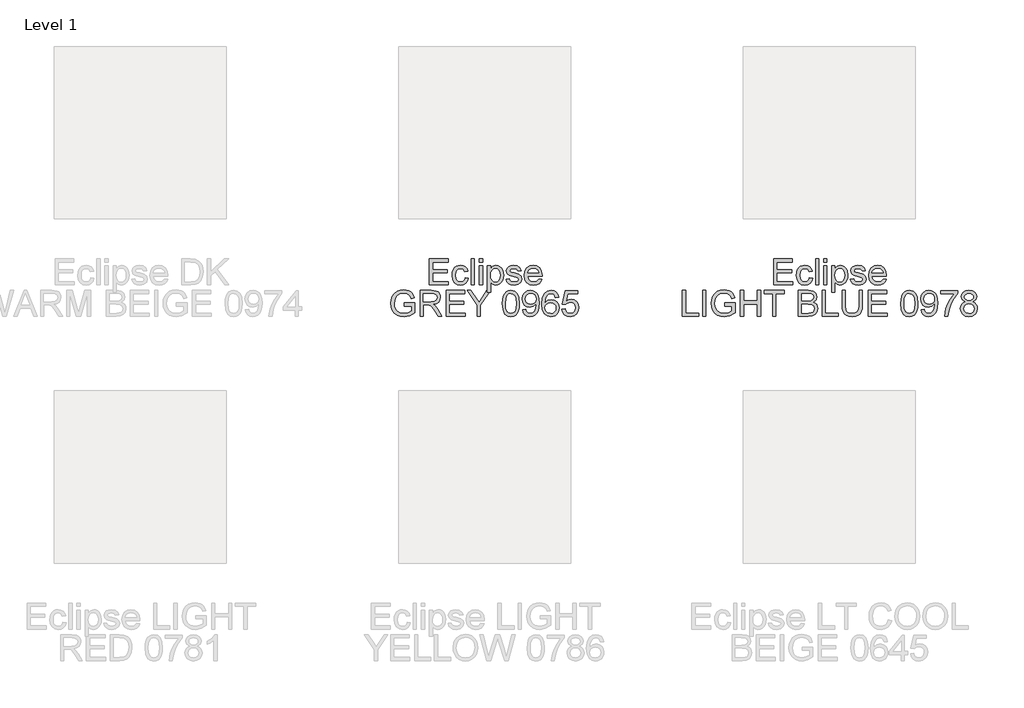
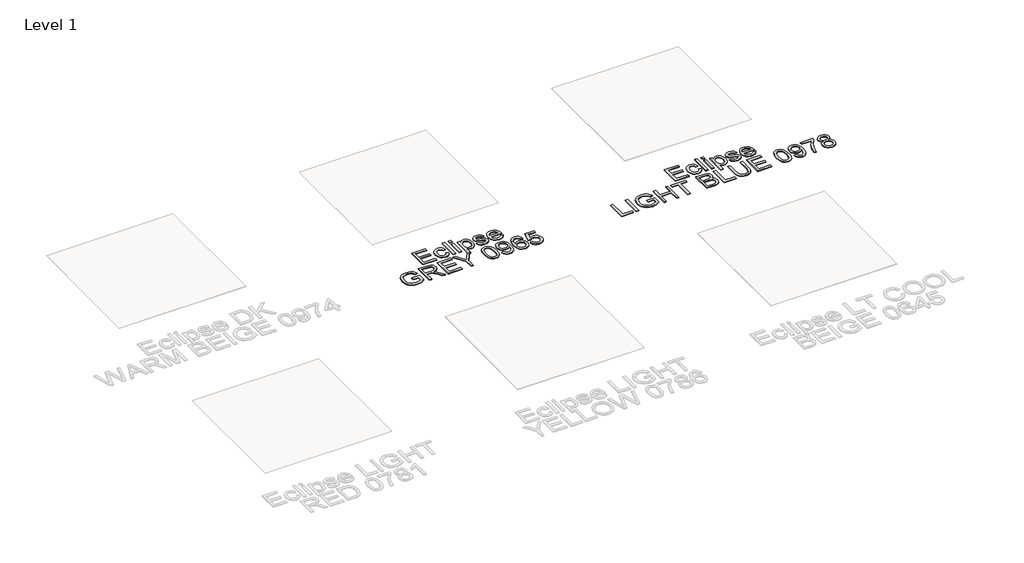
# One storey, part 12 of 13: 2 proxies.
"""IFC4 building model written with IfcOpenShell, lengths in millimetres."""

from ifc_helpers import new_model, si_unit, origin, origin_with_axes, place, context, project, spatial, polyline, outline, extrude, element, save

model = new_model("IFC4")

# Units and contexts
model_context = context("Model", 3, world=origin())
ifc_project = project(units=[si_unit("LENGTHUNIT", "METRE", prefix="MILLI")], contexts=[model_context])

# Site, building, storey
site = spatial("IfcSite", under=ifc_project)
building = spatial("IfcBuilding", under=site)
storey = spatial("IfcBuildingStorey", under=building, Name="Level 1", Elevation=0.0)

# Proxies
placement = place(None, origin())
element("IfcBuildingElementProxy", 1, Name="150mm Arial", ObjectType="150mm Arial", at=placement, inside=storey, context=model_context, shape_type="SweptSolid", body=[
    extrude(outline(polyline([(3744.6774457, 637.0544578), (3744.6774457, 787.738923), (3852.9819051, 787.738923), (3852.9819051, 768.9033648), (3763.5130039, 768.9033648), (3763.5130039, 724.1689142), (3848.2730155, 724.1689142), (3848.2730155, 705.3333561), (3763.5130039, 705.3333561), (3763.5130039, 655.8900159), (3855.3363499, 655.8900159), (3855.3363499, 637.0544578), (3744.6774457, 637.0544578)])), origin_with_axes(), (0.0, 0.0, 1.0), 5.0),
    extrude(outline(polyline([(3951.8685854, 677.0800188), (3970.7041435, 674.7255741), (3965.4526281, 657.9731477), (3955.5841935, 645.3134086), (3942.027742, 637.3533619), (3925.7121755, 634.700013), (3905.6764024, 638.4018256), (3890.0092279, 649.5072633), (3879.8970716, 667.5288825), (3876.5263528, 691.9792397), (3877.9656911, 708.7408631), (3882.283706, 723.2676033), (3889.5493754, 734.9984405), (3899.8316772, 743.3723544), (3912.1327314, 748.3939436), (3925.4546581, 750.0678067), (3941.3701529, 747.7685442), (3954.0942715, 740.8707568), (3963.2223435, 729.7423265), (3968.3496988, 714.7511352), (3949.5141406, 712.3966904), (3940.7769432, 726.5049649), (3925.6018109, 731.2322485), (3913.4295154, 728.9053949), (3903.7680145, 721.9248341), (3897.4634368, 709.9134869), (3895.3619109, 692.4942744), (3897.4174516, 674.8405372), (3903.5840735, 662.7878033), (3913.0708305, 655.8486292), (3925.0867761, 653.5355712), (3934.8402475, 654.979508), (3942.8370824, 659.3113185), (3948.6542165, 666.6413672), (3951.8685854, 677.0800188)])), origin_with_axes(), (0.0, 0.0, 1.0), 5.0),
    extrude(outline(polyline([(3987.1852569, 637.0544578), (3987.1852569, 787.738923), (4006.0208151, 787.738923), (4006.0208151, 637.0544578), (3987.1852569, 637.0544578)])), origin_with_axes(), (0.0, 0.0, 1.0), 5.0),
    extrude(outline(polyline([(4034.2741523, 768.9033648), (4034.2741523, 787.738923), (4053.1097105, 787.738923), (4053.1097105, 768.9033648), (4034.2741523, 768.9033648)])), origin_with_axes(), (0.0, 0.0, 1.0), 5.0),
    extrude(outline(polyline([(4034.2741523, 637.0544578), (4034.2741523, 747.7133619), (4053.1097105, 747.7133619), (4053.1097105, 637.0544578), (4034.2741523, 637.0544578)])), origin_with_axes(), (0.0, 0.0, 1.0), 5.0),
    extrude(outline(polyline([(4081.3630477, 594.6744519), (4081.3630477, 747.7133619), (4100.1986058, 747.7133619), (4100.1986058, 729.2456858), (4113.2216285, 744.8622765), (4130.8063878, 750.0678067), (4143.5443019, 748.2467908), (4154.6819293, 742.7837432), (4163.7502205, 734.0097576), (4170.2801259, 722.2559279), (4175.5408385, 693.2300384), (4174.0555149, 677.1214056), (4169.5995442, 662.7142269), (4162.3154807, 650.739668), (4152.3458787, 641.9288942), (4140.7346032, 636.5072333), (4128.5255195, 634.700013), (4112.1363766, 639.5376612), (4100.1986058, 651.7697376), (4100.1986058, 594.6744519), (4081.3630477, 594.6744519)]), holes=[polyline([(4100.1986058, 691.5009931), (4102.2357524, 674.6152095), (4108.347192, 662.8061974), (4117.3648994, 655.8532277), (4128.1208493, 653.5355712), (4139.0515431, 655.9360012), (4148.2991767, 663.1372912), (4154.6037544, 675.3785646), (4156.7052803, 692.8989446), (4154.6543382, 709.6927577), (4148.5015118, 721.6673167), (4139.4976, 728.8410156), (4128.8934015, 731.2322485), (4118.2478162, 728.6892642), (4108.899015, 721.0603114), (4102.3737081, 708.5845132), (4100.1986058, 691.5009931)])]), origin_with_axes(), (0.0, 0.0, 1.0), 5.0),
    extrude(outline(polyline([(4189.6675071, 670.0166845), (4208.5030652, 672.3711293), (4211.4737123, 664.3145136), (4217.2218685, 658.3916135), (4237.1978608, 653.5355712), (4256.401301, 657.9869433), (4262.6552949, 668.434792), (4261.0825994, 673.235652), (4256.3645128, 676.8960778), (4236.9771316, 682.267155), (4208.6134298, 691.482599), (4196.2342007, 702.2431473), (4192.0219518, 717.4366737), (4195.4064662, 731.4713718), (4204.6403043, 742.195132), (4216.6148632, 747.7685442), (4232.8200651, 750.0678067), (4255.7391134, 746.3705926), (4270.3072404, 736.3642024), (4276.7819635, 719.4600247), (4257.9464054, 717.1055799), (4250.864677, 727.4982463), (4234.2915931, 731.2322485), (4216.2653753, 727.6637932), (4210.85751, 719.3496601), (4213.1015902, 713.8682184), (4220.1281363, 709.7111518), (4236.3517323, 705.7012381), (4263.9980642, 696.835282), (4276.8371458, 686.7921035), (4281.4908531, 670.4213547), (4276.0278054, 652.395137), (4260.2640619, 639.316932), (4236.9403434, 634.700013), (4217.9484354, 636.9256991), (4204.0884813, 643.6027573), (4194.8362491, 654.6576112), (4189.6675071, 670.0166845)])), origin_with_axes(), (0.0, 0.0, 1.0), 5.0),
    extrude(outline(polyline([(4380.1568042, 670.0166845), (4398.6244803, 667.6622398), (4391.9704147, 653.7471033), (4381.3524207, 643.3452399), (4367.0096214, 636.8613197), (4349.1811402, 634.700013), (4327.0806293, 638.4294167), (4310.0752841, 649.6176279), (4299.2319623, 667.5380796), (4295.6175217, 691.4642049), (4299.2687505, 716.195072), (4310.2224369, 734.6903393), (4326.9978559, 746.2234398), (4348.1142824, 750.0678067), (4368.5731198, 746.2326369), (4384.920876, 734.7271275), (4395.6400376, 716.2686484), (4399.2130915, 691.5745695), (4399.1027269, 686.4977979), (4314.4530798, 686.4977979), (4317.713434, 672.3987205), (4325.2872046, 662.0336452), (4336.2178984, 655.6600897), (4349.5490222, 653.5355712), (4368.0166983, 657.4719085), (4380.1568042, 670.0166845)]), holes=[polyline([(4314.4530798, 705.3333561), (4380.3775334, 705.3333561), (4377.8299506, 715.284564), (4372.8359525, 722.4030807), (4361.8546749, 729.0249566), (4348.040706, 731.2322485), (4335.3441786, 729.4710135), (4324.8457462, 724.1873083), (4317.5478871, 715.9513502), (4314.4530798, 705.3333561)])]), origin_with_axes(), (0.0, 0.0, 1.0), 5.0),
    extrude(outline(polyline([(3598.70187, 512.9533502), (3598.70187, 531.7889084), (3659.917434, 531.7889084), (3659.917434, 475.4661749), (3629.6959281, 457.6974746), (3597.7453768, 451.7377862), (3576.6151547, 454.1060266), (3557.5174807, 461.2107476), (3541.6525696, 472.803629), (3530.2206366, 488.6363503), (3523.3090536, 507.6282584), (3521.0051926, 528.6986996), (3523.2998566, 549.9208922), (3530.1838484, 569.6623598), (3541.3720596, 586.2216481), (3556.5793816, 597.8973029), (3575.10224, 604.8226815), (3596.2370606, 607.131141), (3625.7044085, 601.778458), (3637.4536397, 595.3773113), (3646.3609825, 586.8792372), (3657.7469302, 561.955232), (3640.3829001, 557.0624015), (3631.7928555, 574.4816139), (3617.1143639, 584.5247924), (3595.9427551, 588.2955828), (3571.8280903, 584.2304868), (3555.4205533, 573.5619089), (3545.7268627, 559.0489642), (3539.8407508, 529.4712518), (3541.6111829, 511.4588296), (3546.9224792, 496.6377837), (3555.6136913, 485.1138802), (3567.5238709, 476.9928852), (3581.462, 472.1782296), (3596.2370606, 470.5733444), (3622.0071944, 475.4109926), (3641.0818759, 485.7300826), (3641.0818759, 512.9533502), (3598.70187, 512.9533502)])), origin_with_axes(), (0.0, 0.0, 1.0), 5.0),
    extrude(outline(polyline([(3690.525216, 454.092231), (3690.525216, 604.7766962), (3755.4563882, 604.7766962), (3785.6043177, 600.7116002), (3794.884141, 595.0830057), (3802.085431, 586.3274142), (3806.7069486, 575.4702968), (3808.2474545, 563.5371246), (3805.6952731, 548.6930861), (3798.0387291, 536.3874333), (3785.0478961, 527.3651274), (3766.492848, 522.3711293), (3777.1982141, 514.3145136), (3792.4653169, 494.9271325), (3817.5916571, 454.092231), (3795.7026784, 454.092231), (3776.0945681, 485.3254124), (3761.9311113, 506.0003805), (3751.9799033, 515.7676475), (3743.0219767, 519.3544969), (3732.0958815, 520.0166845), (3709.3607742, 520.0166845), (3709.3607742, 454.092231), (3690.525216, 454.092231)]), holes=[polyline([(3709.3607742, 538.8522427), (3751.5200508, 538.8522427), (3773.0227534, 541.5193872), (3785.2364357, 550.0542494), (3789.4118963, 562.8381488), (3787.420735, 572.0260016), (3781.4472511, 579.4296268), (3771.1695479, 584.3132602), (3756.2657286, 585.9411381), (3709.3607742, 585.9411381), (3709.3607742, 538.8522427)])]), origin_with_axes(), (0.0, 0.0, 1.0), 5.0),
    extrude(outline(polyline([(3841.2096812, 454.092231), (3841.2096812, 604.7766962), (3949.5141406, 604.7766962), (3949.5141406, 585.9411381), (3860.0452394, 585.9411381), (3860.0452394, 541.2066875), (3944.8052511, 541.2066875), (3944.8052511, 522.3711293), (3860.0452394, 522.3711293), (3860.0452394, 472.9277892), (3951.8685854, 472.9277892), (3951.8685854, 454.092231), (3841.2096812, 454.092231)])), origin_with_axes(), (0.0, 0.0, 1.0), 5.0),
    extrude(outline(polyline([(4022.5019285, 454.092231), (4022.5019285, 517.9197572), (3963.6408092, 604.7766962), (3985.8608817, 604.7766962), (4017.2780041, 558.3867766), (4033.3544473, 534.7319643), (4049.4676787, 560.0790338), (4077.9785333, 604.7766962), (4100.1986058, 604.7766962), (4041.3374866, 517.9197572), (4041.3374866, 454.092231), (4022.5019285, 454.092231)])), origin_with_axes(), (0.0, 0.0, 1.0), 5.0),
    extrude(outline(polyline([(4168.4775041, 528.220453), (4169.8616602, 552.3397163), (4174.0141282, 571.5753462), (4180.8935215, 586.2216481), (4190.4584534, 596.5729277), (4202.7779017, 602.7257541), (4217.9208443, 604.7766962), (4239.9201876, 599.9206539), (4255.113714, 585.922744), (4263.9428819, 563.6290951), (4267.3641844, 528.220453), (4265.993824, 504.2391455), (4261.8827427, 485.0495009), (4255.0447361, 470.3894034), (4245.4935998, 459.996737), (4233.1465604, 453.8025239), (4217.9208443, 451.7377862), (4198.3495222, 455.3246357), (4183.4870895, 466.085184), (4172.2299005, 491.5702093), (4168.4775041, 528.220453)]), holes=[polyline([(4187.3130623, 528.2572412), (4189.5203543, 498.628945), (4196.1422302, 481.4810455), (4206.0014677, 473.3002697), (4217.9208443, 470.5733444), (4229.8402209, 473.3094667), (4239.6994584, 481.5178337), (4246.3213343, 498.6749303), (4248.5286263, 528.2572412), (4246.3949107, 557.2187513), (4239.993764, 574.500008), (4230.1529206, 583.0808556), (4217.7001151, 585.9411381), (4205.9094972, 583.4211464), (4196.4365358, 575.8611714), (4189.5939307, 557.5038598), (4187.3130623, 528.2572412)])]), origin_with_axes(), (0.0, 0.0, 1.0), 5.0),
    extrude(outline(polyline([(4286.1997426, 491.7633473), (4305.0353008, 494.1177921), (4308.2542682, 483.4262216), (4313.4965866, 476.1467566), (4320.6334974, 471.9666974), (4329.5362416, 470.5733444), (4344.7849503, 474.1601938), (4355.1224344, 483.7435198), (4361.2844578, 500.1142686), (4364.0067846, 521.9664591), (4363.89642, 525.6452791), (4348.8316523, 511.3714577), (4328.1750783, 505.8900159), (4310.9995876, 509.2377421), (4296.7027736, 519.2809205), (4287.0596668, 534.7963437), (4283.8452978, 554.5608039), (4287.2160166, 574.9782546), (4297.328173, 590.9811214), (4312.5171008, 601.3278025), (4331.1181342, 604.7766962), (4345.1666279, 602.8085276), (4357.9551258, 596.9040215), (4368.6512948, 587.3574838), (4376.4228019, 574.4632198), (4381.1546841, 556.6393372), (4382.7319781, 532.3039432), (4381.1592826, 506.5016197), (4376.441196, 486.5578171), (4368.6191051, 471.5712243), (4357.7343966, 460.6405305), (4344.25612, 453.9634723), (4328.6533248, 451.7377862), (4312.5492905, 454.363544), (4299.7010118, 462.2408172), (4290.7154941, 474.8729652), (4286.1997426, 491.7633473)]), holes=[polyline([(4363.89642, 555.0022623), (4361.863872, 567.7677675), (4355.7662279, 577.5902168), (4346.3024636, 583.8534078), (4334.1715548, 585.9411381), (4321.5899905, 583.6924594), (4311.5100239, 576.9464233), (4304.888148, 566.6227348), (4302.680856, 553.6410989), (4304.7685863, 542.0022323), (4311.0317773, 532.7637957), (4320.8634236, 526.7351295), (4333.65652, 524.7255741), (4345.6908597, 526.7351295), (4355.3799518, 532.7637957), (4361.7673029, 542.3425231), (4363.89642, 555.0022623)])]), origin_with_axes(), (0.0, 0.0, 1.0), 5.0),
    extrude(outline(polyline([(4495.7453271, 564.7511352), (4476.9097689, 562.3966904), (4469.7728582, 578.1052516), (4461.2287989, 583.9821664), (4450.9005118, 585.9411381), (4433.9043637, 581.3794013), (4421.0468879, 564.2544945), (4417.1427403, 550.2243949), (4415.6942049, 530.6852624), (4432.304077, 545.7132419), (4452.8870746, 550.6244665), (4470.287893, 547.2675433), (4484.8928082, 537.1967737), (4494.7980309, 521.8101093), (4498.0997718, 502.5055016), (4496.5454704, 489.0180279), (4491.8825661, 476.5146386), (4484.4973351, 465.9104401), (4474.7760533, 458.1205388), (4463.1601793, 453.3334744), (4450.0911715, 451.7377862), (4428.7218261, 455.9684292), (4411.7026853, 468.660358), (4400.5696564, 491.0643715), (4396.8586468, 524.4312685), (4400.9789251, 561.9460349), (4413.3397601, 587.5966071), (4430.2163467, 600.4816739), (4452.0777342, 604.7766962), (4468.6048329, 602.1187488), (4481.8393876, 594.1449066), (4491.1100139, 581.4805689), (4495.7453271, 564.7511352)]), holes=[polyline([(4415.6942049, 502.7998072), (4420.0536065, 486.4842407), (4431.6418894, 474.6384404), (4448.6196435, 470.5733444), (4461.0494564, 472.6794688), (4470.8213219, 478.9978421), (4477.1534907, 488.9306559), (4479.2642137, 501.8801022), (4477.1810819, 514.3099151), (4470.9316865, 523.787475), (4460.9942741, 529.78855), (4447.8470913, 531.7889084), (4435.4356725, 529.78855), (4425.0568017, 523.787475), (4418.0348541, 514.5398413), (4415.6942049, 502.7998072)])]), origin_with_axes(), (0.0, 0.0, 1.0), 5.0),
    extrude(outline(polyline([(4514.5808852, 494.1177921), (4533.4164434, 496.4722368), (4536.8745341, 485.164464), (4542.9077988, 477.0664616), (4551.4886464, 472.1966237), (4562.5894856, 470.5733444), (4576.0907548, 472.8312201), (4586.2075097, 479.6048474), (4592.5258829, 490.1124769), (4594.6320074, 503.5723594), (4592.6592402, 516.2458941), (4586.7409386, 525.9395847), (4576.8311173, 532.092411), (4562.8837912, 534.1433532), (4546.3474955, 530.8692034), (4535.7708881, 522.3711293), (4516.93533, 524.7255741), (4533.4164434, 602.4222515), (4606.4042312, 602.4222515), (4606.4042312, 583.5866933), (4548.646758, 583.5866933), (4540.5901423, 542.0896042), (4554.0454262, 550.2565845), (4568.1445037, 552.9789113), (4585.7430587, 549.603594), (4600.3525724, 539.4776421), (4610.1888172, 524.0449924), (4613.4675655, 504.7495817), (4610.5153125, 485.9140236), (4601.6585535, 469.8007922), (4584.6991935, 456.2535377), (4562.5159092, 451.7377862), (4544.0160433, 454.6394555), (4529.2777709, 463.3444632), (4519.1748116, 476.8411339), (4514.5808852, 494.1177921)])), origin_with_axes(), (0.0, 0.0, 1.0), 5.0),
])
element("IfcBuildingElementProxy", 2, Name="150mm Arial", ObjectType="150mm Arial", at=placement, inside=storey, context=model_context, shape_type="SweptSolid", body=[
    extrude(outline(polyline([(5744.6774457, 637.0544578), (5744.6774457, 787.738923), (5852.9819051, 787.738923), (5852.9819051, 768.9033648), (5763.5130039, 768.9033648), (5763.5130039, 724.1689142), (5848.2730155, 724.1689142), (5848.2730155, 705.3333561), (5763.5130039, 705.3333561), (5763.5130039, 655.8900159), (5855.3363499, 655.8900159), (5855.3363499, 637.0544578), (5744.6774457, 637.0544578)])), origin_with_axes(), (0.0, 0.0, 1.0), 5.0),
    extrude(outline(polyline([(5951.8685854, 677.0800188), (5970.7041435, 674.7255741), (5965.4526281, 657.9731477), (5955.5841935, 645.3134086), (5942.027742, 637.3533619), (5925.7121755, 634.700013), (5905.6764024, 638.4018256), (5890.0092279, 649.5072633), (5879.8970716, 667.5288825), (5876.5263528, 691.9792397), (5877.9656911, 708.7408631), (5882.283706, 723.2676033), (5889.5493754, 734.9984405), (5899.8316772, 743.3723544), (5912.1327314, 748.3939436), (5925.4546581, 750.0678067), (5941.3701529, 747.7685442), (5954.0942715, 740.8707568), (5963.2223435, 729.7423265), (5968.3496988, 714.7511352), (5949.5141406, 712.3966904), (5940.7769432, 726.5049649), (5925.6018109, 731.2322485), (5913.4295154, 728.9053949), (5903.7680145, 721.9248341), (5897.4634368, 709.9134869), (5895.3619109, 692.4942744), (5897.4174516, 674.8405372), (5903.5840735, 662.7878033), (5913.0708305, 655.8486292), (5925.0867761, 653.5355712), (5934.8402475, 654.979508), (5942.8370824, 659.3113185), (5948.6542165, 666.6413672), (5951.8685854, 677.0800188)])), origin_with_axes(), (0.0, 0.0, 1.0), 5.0),
    extrude(outline(polyline([(5987.1852569, 637.0544578), (5987.1852569, 787.738923), (6006.0208151, 787.738923), (6006.0208151, 637.0544578), (5987.1852569, 637.0544578)])), origin_with_axes(), (0.0, 0.0, 1.0), 5.0),
    extrude(outline(polyline([(6034.2741523, 768.9033648), (6034.2741523, 787.738923), (6053.1097105, 787.738923), (6053.1097105, 768.9033648), (6034.2741523, 768.9033648)])), origin_with_axes(), (0.0, 0.0, 1.0), 5.0),
    extrude(outline(polyline([(6034.2741523, 637.0544578), (6034.2741523, 747.7133619), (6053.1097105, 747.7133619), (6053.1097105, 637.0544578), (6034.2741523, 637.0544578)])), origin_with_axes(), (0.0, 0.0, 1.0), 5.0),
    extrude(outline(polyline([(6081.3630477, 594.6744519), (6081.3630477, 747.7133619), (6100.1986058, 747.7133619), (6100.1986058, 729.2456858), (6113.2216285, 744.8622765), (6130.8063878, 750.0678067), (6143.5443019, 748.2467908), (6154.6819293, 742.7837432), (6163.7502205, 734.0097576), (6170.2801259, 722.2559279), (6175.5408385, 693.2300384), (6174.0555149, 677.1214056), (6169.5995442, 662.7142269), (6162.3154807, 650.739668), (6152.3458787, 641.9288942), (6140.7346032, 636.5072333), (6128.5255195, 634.700013), (6112.1363766, 639.5376612), (6100.1986058, 651.7697376), (6100.1986058, 594.6744519), (6081.3630477, 594.6744519)]), holes=[polyline([(6100.1986058, 691.5009931), (6102.2357524, 674.6152095), (6108.347192, 662.8061974), (6117.3648994, 655.8532277), (6128.1208493, 653.5355712), (6139.0515431, 655.9360012), (6148.2991767, 663.1372912), (6154.6037544, 675.3785646), (6156.7052803, 692.8989446), (6154.6543382, 709.6927577), (6148.5015118, 721.6673167), (6139.4976, 728.8410156), (6128.8934015, 731.2322485), (6118.2478162, 728.6892642), (6108.899015, 721.0603114), (6102.3737081, 708.5845132), (6100.1986058, 691.5009931)])]), origin_with_axes(), (0.0, 0.0, 1.0), 5.0),
    extrude(outline(polyline([(6189.6675071, 670.0166845), (6208.5030652, 672.3711293), (6211.4737123, 664.3145136), (6217.2218685, 658.3916135), (6237.1978608, 653.5355712), (6256.401301, 657.9869433), (6262.6552949, 668.434792), (6261.0825994, 673.235652), (6256.3645128, 676.8960778), (6236.9771316, 682.267155), (6208.6134298, 691.482599), (6196.2342007, 702.2431473), (6192.0219518, 717.4366737), (6195.4064662, 731.4713718), (6204.6403043, 742.195132), (6216.6148632, 747.7685442), (6232.8200651, 750.0678067), (6255.7391134, 746.3705926), (6270.3072404, 736.3642024), (6276.7819635, 719.4600247), (6257.9464054, 717.1055799), (6250.864677, 727.4982463), (6234.2915931, 731.2322485), (6216.2653753, 727.6637932), (6210.85751, 719.3496601), (6213.1015902, 713.8682184), (6220.1281363, 709.7111518), (6236.3517323, 705.7012381), (6263.9980642, 696.835282), (6276.8371458, 686.7921035), (6281.4908531, 670.4213547), (6276.0278054, 652.395137), (6260.2640619, 639.316932), (6236.9403434, 634.700013), (6217.9484354, 636.9256991), (6204.0884813, 643.6027573), (6194.8362491, 654.6576112), (6189.6675071, 670.0166845)])), origin_with_axes(), (0.0, 0.0, 1.0), 5.0),
    extrude(outline(polyline([(6380.1568042, 670.0166845), (6398.6244803, 667.6622398), (6391.9704147, 653.7471033), (6381.3524207, 643.3452399), (6367.0096214, 636.8613197), (6349.1811402, 634.700013), (6327.0806293, 638.4294167), (6310.0752841, 649.6176279), (6299.2319623, 667.5380796), (6295.6175217, 691.4642049), (6299.2687505, 716.195072), (6310.2224369, 734.6903393), (6326.9978559, 746.2234398), (6348.1142824, 750.0678067), (6368.5731198, 746.2326369), (6384.920876, 734.7271275), (6395.6400376, 716.2686484), (6399.2130915, 691.5745695), (6399.1027269, 686.4977979), (6314.4530798, 686.4977979), (6317.713434, 672.3987205), (6325.2872046, 662.0336452), (6336.2178984, 655.6600897), (6349.5490222, 653.5355712), (6368.0166983, 657.4719085), (6380.1568042, 670.0166845)]), holes=[polyline([(6314.4530798, 705.3333561), (6380.3775334, 705.3333561), (6377.8299506, 715.284564), (6372.8359525, 722.4030807), (6361.8546749, 729.0249566), (6348.040706, 731.2322485), (6335.3441786, 729.4710135), (6324.8457462, 724.1873083), (6317.5478871, 715.9513502), (6314.4530798, 705.3333561)])]), origin_with_axes(), (0.0, 0.0, 1.0), 5.0),
    extrude(outline(polyline([(5213.7501503, 454.092231), (5213.7501503, 604.7766962), (5232.5857084, 604.7766962), (5232.5857084, 472.9277892), (5307.927941, 472.9277892), (5307.927941, 454.092231), (5213.7501503, 454.092231)])), origin_with_axes(), (0.0, 0.0, 1.0), 5.0),
    extrude(outline(polyline([(5331.4723887, 454.092231), (5331.4723887, 604.7766962), (5350.3079469, 604.7766962), (5350.3079469, 454.092231), (5331.4723887, 454.092231)])), origin_with_axes(), (0.0, 0.0, 1.0), 5.0),
    extrude(outline(polyline([(5458.6124063, 512.9533502), (5458.6124063, 531.7889084), (5519.8279703, 531.7889084), (5519.8279703, 475.4661749), (5489.6064643, 457.6974746), (5457.6559131, 451.7377862), (5436.525691, 454.1060266), (5417.4280169, 461.2107476), (5401.5631059, 472.803629), (5390.1311729, 488.6363503), (5383.2195899, 507.6282584), (5380.9157289, 528.6986996), (5383.2103928, 549.9208922), (5390.0943847, 569.6623598), (5401.2825958, 586.2216481), (5416.4899178, 597.8973029), (5435.0127763, 604.8226815), (5456.1475969, 607.131141), (5485.6149447, 601.778458), (5497.3641759, 595.3773113), (5506.2715187, 586.8792372), (5517.6574665, 561.955232), (5500.2934363, 557.0624015), (5491.7033917, 574.4816139), (5477.0249001, 584.5247924), (5455.8532913, 588.2955828), (5431.7386265, 584.2304868), (5415.3310895, 573.5619089), (5405.6373989, 559.0489642), (5399.751287, 529.4712518), (5401.5217191, 511.4588296), (5406.8330154, 496.6377837), (5415.5242276, 485.1138802), (5427.4344072, 476.9928852), (5441.3725363, 472.1782296), (5456.1475969, 470.5733444), (5481.9177306, 475.4109926), (5500.9924121, 485.7300826), (5500.9924121, 512.9533502), (5458.6124063, 512.9533502)])), origin_with_axes(), (0.0, 0.0, 1.0), 5.0),
    extrude(outline(polyline([(5550.4357522, 454.092231), (5550.4357522, 604.7766962), (5569.2713104, 604.7766962), (5569.2713104, 543.5611322), (5649.3224326, 543.5611322), (5649.3224326, 604.7766962), (5668.1579907, 604.7766962), (5668.1579907, 454.092231), (5649.3224326, 454.092231), (5649.3224326, 524.7255741), (5569.2713104, 524.7255741), (5569.2713104, 454.092231), (5550.4357522, 454.092231)])), origin_with_axes(), (0.0, 0.0, 1.0), 5.0),
    extrude(outline(polyline([(5738.7913338, 454.092231), (5738.7913338, 585.9411381), (5689.3479936, 585.9411381), (5689.3479936, 604.7766962), (5807.0702321, 604.7766962), (5807.0702321, 585.9411381), (5757.6268919, 585.9411381), (5757.6268919, 454.092231), (5738.7913338, 454.092231)])), origin_with_axes(), (0.0, 0.0, 1.0), 5.0),
    extrude(outline(polyline([(5887.1213542, 454.092231), (5887.1213542, 604.7766962), (5944.6213101, 604.7766962), (5972.7826768, 600.3437182), (5982.2464411, 594.7197222), (5989.410943, 586.7136903), (5995.4258136, 567.4366737), (5990.3674362, 549.8335202), (5975.0819393, 536.4977979), (5985.7551157, 530.9243857), (5993.6415859, 522.4447057), (5998.5114238, 511.619778), (6000.1347032, 499.0106226), (5995.7017251, 478.7587188), (5984.7204476, 464.3377446), (5968.3313047, 456.6857991), (5944.1798517, 454.092231), (5887.1213542, 454.092231)]), holes=[polyline([(5905.9569124, 543.5611322), (5940.3538789, 543.5611322), (5960.4402359, 545.179813), (5972.5251594, 552.1511768), (5976.5902555, 564.4200414), (5972.8010709, 576.7073), (5961.9485521, 583.9729694), (5937.7419168, 585.9411381), (5905.9569124, 585.9411381), (5905.9569124, 543.5611322)]), polyline([(5905.9569124, 472.9277892), (5944.5845219, 472.9277892), (5958.5640377, 473.6635531), (5970.3914438, 477.7654374), (5978.2273303, 486.1347528), (5981.299145, 498.8266816), (5977.6939014, 513.468385), (5966.0136481, 522.2055824), (5942.7451119, 524.7255741), (5905.9569124, 524.7255741), (5905.9569124, 472.9277892)])]), origin_with_axes(), (0.0, 0.0, 1.0), 5.0),
    extrude(outline(polyline([(6026.0335956, 454.092231), (6026.0335956, 604.7766962), (6044.8691538, 604.7766962), (6044.8691538, 472.9277892), (6120.2113864, 472.9277892), (6120.2113864, 454.092231), (6026.0335956, 454.092231)])), origin_with_axes(), (0.0, 0.0, 1.0), 5.0),
    extrude(outline(polyline([(6240.2880696, 604.7766962), (6259.1236278, 604.7766962), (6259.1236278, 517.8461808), (6257.8452378, 497.4885109), (6254.010068, 481.8121393), (6246.8455662, 469.7180187), (6235.5791801, 460.1071016), (6220.1833186, 453.8301151), (6200.6303905, 451.7377862), (6181.5051253, 453.5588021), (6166.2150299, 459.0218497), (6154.7555057, 467.9383896), (6147.1219543, 480.1198822), (6142.8315306, 496.4584413), (6141.4013893, 517.8461808), (6141.4013893, 604.7766962), (6160.2369475, 604.7766962), (6160.2369475, 518.5083684), (6163.9525556, 489.7951786), (6169.001736, 481.6327969), (6176.7180608, 475.5765395), (6198.8645569, 470.5733444), (6218.0220118, 473.0473508), (6230.7599259, 480.4693701), (6237.9060337, 494.9271325), (6240.2880696, 518.5083684), (6240.2880696, 604.7766962)])), origin_with_axes(), (0.0, 0.0, 1.0), 5.0),
    extrude(outline(polyline([(6292.0858545, 454.092231), (6292.0858545, 604.7766962), (6400.3903139, 604.7766962), (6400.3903139, 585.9411381), (6310.9214127, 585.9411381), (6310.9214127, 541.2066875), (6395.6814244, 541.2066875), (6395.6814244, 522.3711293), (6310.9214127, 522.3711293), (6310.9214127, 472.9277892), (6402.7447587, 472.9277892), (6402.7447587, 454.092231), (6292.0858545, 454.092231)])), origin_with_axes(), (0.0, 0.0, 1.0), 5.0),
    extrude(outline(polyline([(6482.7958808, 528.220453), (6484.1800368, 552.3397163), (6488.3325049, 571.5753462), (6495.2118982, 586.2216481), (6504.77683, 596.5729277), (6517.0962784, 602.7257541), (6532.239221, 604.7766962), (6554.2385643, 599.9206539), (6569.4320907, 585.922744), (6578.2612586, 563.6290951), (6581.6825611, 528.220453), (6580.3122007, 504.2391455), (6576.2011194, 485.0495009), (6569.3631128, 470.3894034), (6559.8119765, 459.996737), (6547.4649371, 453.8025239), (6532.239221, 451.7377862), (6512.6678988, 455.3246357), (6497.8054662, 466.085184), (6486.5482772, 491.5702093), (6482.7958808, 528.220453)]), holes=[polyline([(6501.631439, 528.2572412), (6503.8387309, 498.628945), (6510.4606069, 481.4810455), (6520.3198443, 473.3002697), (6532.239221, 470.5733444), (6544.1585976, 473.3094667), (6554.0178351, 481.5178337), (6560.639711, 498.6749303), (6562.847003, 528.2572412), (6560.7132874, 557.2187513), (6554.3121407, 574.500008), (6544.4712973, 583.0808556), (6532.0184918, 585.9411381), (6520.2278738, 583.4211464), (6510.7549125, 575.8611714), (6503.9123073, 557.5038598), (6501.631439, 528.2572412)])]), origin_with_axes(), (0.0, 0.0, 1.0), 5.0),
    extrude(outline(polyline([(6600.5181193, 491.7633473), (6619.3536774, 494.1177921), (6622.5726449, 483.4262216), (6627.8149633, 476.1467566), (6634.951874, 471.9666974), (6643.8546183, 470.5733444), (6659.103327, 474.1601938), (6669.4408111, 483.7435198), (6675.6028345, 500.1142686), (6678.3251613, 521.9664591), (6678.2147967, 525.6452791), (6663.150029, 511.3714577), (6642.4934549, 505.8900159), (6625.3179643, 509.2377421), (6611.0211502, 519.2809205), (6601.3780434, 534.7963437), (6598.1636745, 554.5608039), (6601.5343933, 574.9782546), (6611.6465496, 590.9811214), (6626.8354775, 601.3278025), (6645.4365109, 604.7766962), (6659.4850046, 602.8085276), (6672.2735024, 596.9040215), (6682.9696715, 587.3574838), (6690.7411786, 574.4632198), (6695.4730608, 556.6393372), (6697.0503548, 532.3039432), (6695.4776593, 506.5016197), (6690.7595727, 486.5578171), (6682.9374818, 471.5712243), (6672.0527732, 460.6405305), (6658.5744966, 453.9634723), (6642.9717015, 451.7377862), (6626.8676672, 454.363544), (6614.0193885, 462.2408172), (6605.0338708, 474.8729652), (6600.5181193, 491.7633473)]), holes=[polyline([(6678.2147967, 555.0022623), (6676.1822486, 567.7677675), (6670.0846046, 577.5902168), (6660.6208402, 583.8534078), (6648.4899315, 585.9411381), (6635.9083672, 583.6924594), (6625.8284006, 576.9464233), (6619.2065246, 566.6227348), (6616.9992327, 553.6410989), (6619.086963, 542.0022323), (6625.350154, 532.7637957), (6635.1818003, 526.7351295), (6647.9748967, 524.7255741), (6660.0092364, 526.7351295), (6669.6983285, 532.7637957), (6676.0856796, 542.3425231), (6678.2147967, 555.0022623)])]), origin_with_axes(), (0.0, 0.0, 1.0), 5.0),
    extrude(outline(polyline([(6713.5314682, 583.5866933), (6713.5314682, 602.4222515), (6812.4181485, 602.4222515), (6812.4181485, 587.1919369), (6784.3671464, 546.6697351), (6772.0568951, 521.2077025), (6762.901232, 495.0374971), (6755.911474, 454.092231), (6737.0759159, 454.092231), (6744.5623145, 496.5826014), (6753.2765193, 521.0421556), (6765.1085239, 544.6095959), (6793.5825904, 583.5866933), (6713.5314682, 583.5866933)])), origin_with_axes(), (0.0, 0.0, 1.0), 5.0),
    extrude(outline(polyline([(6856.3432587, 537.0864091), (6839.1815637, 548.7850566), (6833.6081514, 566.9952153), (6836.6431779, 581.7196922), (6845.7482573, 593.8873892), (6859.902517, 602.0543695), (6878.0850846, 604.7766962), (6896.3780169, 601.9899901), (6910.7162176, 593.6298718), (6919.9868439, 581.2690367), (6923.0770527, 566.4801805), (6917.5772168, 548.7298743), (6900.8937683, 537.0864091), (6912.4866497, 531.1129252), (6920.924943, 522.315947), (6926.0706924, 511.1185388), (6927.7859422, 497.9437648), (6924.3830337, 479.9359412), (6914.1743084, 465.0551145), (6898.4105649, 455.0671183), (6878.342602, 451.7377862), (6858.2746392, 455.0809139), (6842.5108957, 465.1102968), (6832.3021703, 480.1336777), (6828.8992619, 498.4587996), (6830.6834896, 512.1440098), (6836.0361726, 523.4011989), (6844.6813995, 531.8440907), (6856.3432587, 537.0864091)]), holes=[polyline([(6852.4437096, 566.4433923), (6854.1129741, 558.2212297), (6859.1207678, 551.6545361), (6867.3199378, 547.3503168), (6878.5633312, 545.915577), (6889.5446088, 547.3411197), (6897.6196186, 551.6177479), (6902.5860255, 557.9637123), (6904.2414945, 565.5972637), (6902.5308432, 573.5205222), (6897.3988894, 580.0734203), (6889.213515, 584.4742086), (6878.342602, 585.9411381), (6867.4027112, 584.5063983), (6859.2311324, 580.2021789), (6854.1405653, 573.8930027), (6852.4437096, 566.4433923)]), polyline([(6847.73482, 499.1209872), (6850.8802111, 484.9391363), (6862.0086415, 474.3257407), (6878.4897548, 470.5733444), (6891.3104424, 472.5461116), (6900.9305565, 478.4644132), (6906.9454272, 487.4269383), (6908.950384, 498.532376), (6906.8810478, 509.8263533), (6900.6730391, 518.986615), (6890.8321958, 525.0566679), (6877.8643554, 527.0800188), (6865.2230104, 525.084259), (6855.6994652, 519.0969796), (6849.7259813, 510.1114618), (6847.73482, 499.1209872)])]), origin_with_axes(), (0.0, 0.0, 1.0), 5.0),
])

save(model, "model.ifc")
